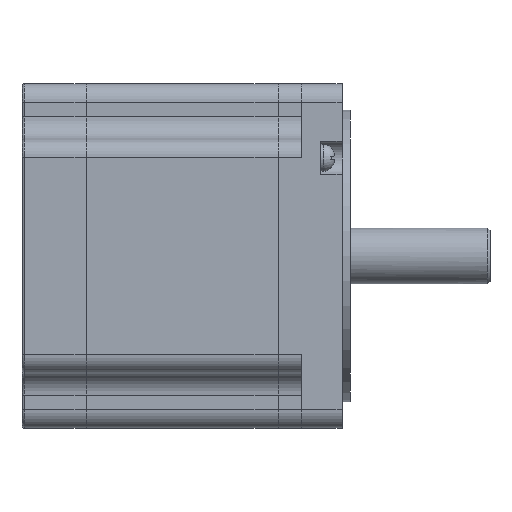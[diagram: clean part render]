
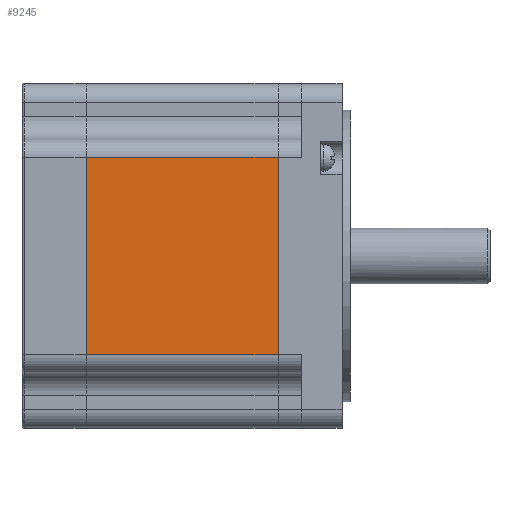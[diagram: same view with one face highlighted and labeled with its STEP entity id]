
A CAD part, front view. The second image highlights one B-rep face of the part: STEP entity #9245.
In plain terms, the highlighted planar face has unit normal (0, -1, 0).
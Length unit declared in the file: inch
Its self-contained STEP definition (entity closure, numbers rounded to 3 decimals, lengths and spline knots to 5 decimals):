
#8255=CARTESIAN_POINT('',(1.6369,-1.695,-0.971));
#8256=VERTEX_POINT('',#8255);
#8264=CARTESIAN_POINT('',(1.6369,-1.695,0.971));
#8265=VERTEX_POINT('',#8264);
#8266=CARTESIAN_POINT('',(1.6369,-1.695,-0.4855));
#8267=DIRECTION('',(0.,0.,1.));
#8268=VECTOR('',#8267,1.);
#8269=LINE('',#8266,#8268);
#8270=EDGE_CURVE('',#8256,#8265,#8269,.T.);
#8592=CARTESIAN_POINT('',(3.52722,-1.695,0.971));
#8593=VERTEX_POINT('',#8592);
#8601=CARTESIAN_POINT('',(3.52722,-1.695,-0.971));
#8602=VERTEX_POINT('',#8601);
#8603=CARTESIAN_POINT('',(3.52722,-1.695,-0.4855));
#8604=DIRECTION('',(0.,0.,-1.));
#8605=VECTOR('',#8604,1.);
#8606=LINE('',#8603,#8605);
#8607=EDGE_CURVE('',#8593,#8602,#8606,.T.);
#8935=CARTESIAN_POINT('',(1.54,-1.695,0.971));
#8936=DIRECTION('',(1.,0.,0.));
#8937=VECTOR('',#8936,39.37008);
#8938=LINE('',#8935,#8937);
#8939=EDGE_CURVE('',#8265,#8593,#8938,.T.);
#9229=CARTESIAN_POINT('',(1.54,-1.695,-0.971));
#9230=DIRECTION('',(1.,0.,0.));
#9231=VECTOR('',#9230,39.37008);
#9232=LINE('',#9229,#9231);
#9233=EDGE_CURVE('',#8256,#8602,#9232,.T.);
#9234=ORIENTED_EDGE('',*,*,#9233,.T.);
#9235=ORIENTED_EDGE('',*,*,#8607,.F.);
#9236=ORIENTED_EDGE('',*,*,#8939,.F.);
#9237=ORIENTED_EDGE('',*,*,#8270,.F.);
#9238=EDGE_LOOP('',(#9234,#9235,#9236,#9237));
#9239=FACE_OUTER_BOUND('',#9238,.T.);
#9240=CARTESIAN_POINT('',(1.54,-1.695,-0.971));
#9241=DIRECTION('',(0.,-1.,0.));
#9242=DIRECTION('',(0.,0.,-1.));
#9243=AXIS2_PLACEMENT_3D('',#9240,#9241,#9242);
#9244=PLANE('',#9243);
#9245=ADVANCED_FACE('',(#9239),#9244,.T.);
